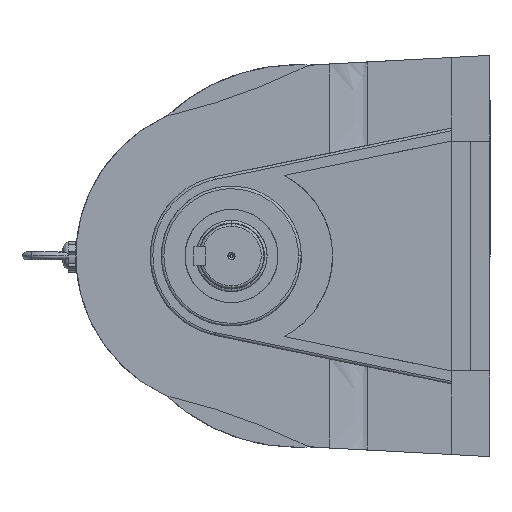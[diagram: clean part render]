
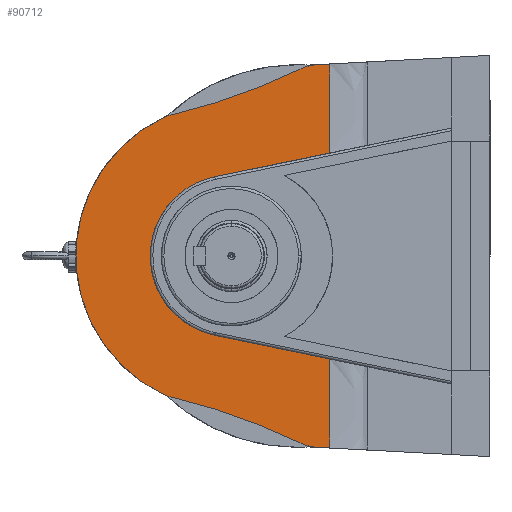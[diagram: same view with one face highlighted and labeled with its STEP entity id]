
A CAD part, left-side view. The second image highlights one B-rep face of the part: STEP entity #90712.
In plain terms, the highlighted planar face has unit normal (-1, 0, 0).
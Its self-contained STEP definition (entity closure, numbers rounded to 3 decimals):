
#1106 = EDGE_CURVE ( 'NONE', #85036, #57407, #5271, .T. ) ;
#2246 = AXIS2_PLACEMENT_3D ( 'NONE', #37320, #37298, #37203 ) ;
#2641 = ORIENTED_EDGE ( 'NONE', *, *, #4628, .T. ) ;
#4628 = EDGE_CURVE ( 'NONE', #57407, #76875, #49115, .T. ) ;
#5014 = CARTESIAN_POINT ( 'NONE',  ( 22., 133.549, 122.81 ) ) ;
#5271 = CIRCLE ( 'NONE', #89835, 62.5 ) ;
#6254 = ORIENTED_EDGE ( 'NONE', *, *, #86771, .T. ) ;
#7099 = CARTESIAN_POINT ( 'NONE',  ( 22., 241.499, -84.44 ) ) ;
#8887 = CARTESIAN_POINT ( 'NONE',  ( 22., 123.914, 79.481 ) ) ;
#8916 = DIRECTION ( 'NONE',  ( -1., 0., 0. ) ) ;
#9970 = ORIENTED_EDGE ( 'NONE', *, *, #73227, .T. ) ;
#11893 = DIRECTION ( 'NONE',  ( 0., 0., 1. ) ) ;
#12265 = DIRECTION ( 'NONE',  ( 0., 0., 1. ) ) ;
#12725 = LINE ( 'NONE', #64400, #51191 ) ;
#12832 = LINE ( 'NONE', #47506, #46825 ) ;
#12890 = VECTOR ( 'NONE', #33364, 1000. ) ;
#12940 = CIRCLE ( 'NONE', #2246, 25. ) ;
#12943 = ORIENTED_EDGE ( 'NONE', *, *, #22078, .T. ) ;
#13247 = DIRECTION ( 'NONE',  ( 0., 0., 1. ) ) ;
#13917 = DIRECTION ( 'NONE',  ( 1., 0., 0. ) ) ;
#14103 = CARTESIAN_POINT ( 'NONE',  ( 22., 0., -155. ) ) ;
#14361 = DIRECTION ( 'NONE',  ( 0., 0., -1. ) ) ;
#14475 = VECTOR ( 'NONE', #60112, 1000. ) ;
#20014 = DIRECTION ( 'NONE',  ( 0., 0., 1. ) ) ;
#21430 = FACE_OUTER_BOUND ( 'NONE', #22090, .T. ) ;
#21664 = VECTOR ( 'NONE', #11893, 1000. ) ;
#22078 = EDGE_CURVE ( 'NONE', #46226, #36135, #12725, .T. ) ;
#22090 = EDGE_LOOP ( 'NONE', ( #58035, #82352, #9970, #50724, #32650, #34724, #38452, #37929, #2641, #36128, #12943, #47727, #6254, #76761 ) ) ;
#23446 = CARTESIAN_POINT ( 'NONE',  ( 22., 212.607, -61.215 ) ) ;
#23545 = CIRCLE ( 'NONE', #44598, 25. ) ;
#25952 = EDGE_CURVE ( 'NONE', #76656, #85036, #69580, .T. ) ;
#26578 = VERTEX_POINT ( 'NONE', #47548 ) ;
#27817 = AXIS2_PLACEMENT_3D ( 'NONE', #7099, #57611, #14361 ) ;
#28840 = VERTEX_POINT ( 'NONE', #50413 ) ;
#28969 = EDGE_CURVE ( 'NONE', #26578, #51081, #12940, .T. ) ;
#31027 = CIRCLE ( 'NONE', #61595, 491.905 ) ;
#32274 = CARTESIAN_POINT ( 'NONE',  ( 22., 212.607, 61.215 ) ) ;
#32650 = ORIENTED_EDGE ( 'NONE', *, *, #44867, .T. ) ;
#33171 = AXIS2_PLACEMENT_3D ( 'NONE', #40508, #90098, #47737 ) ;
#33364 = DIRECTION ( 'NONE',  ( 0., -0.979, 0.202 ) ) ;
#34724 = ORIENTED_EDGE ( 'NONE', *, *, #53241, .T. ) ;
#35411 = DIRECTION ( 'NONE',  ( -1., 0., 0. ) ) ;
#35455 = CIRCLE ( 'NONE', #52232, 25. ) ;
#36005 = CARTESIAN_POINT ( 'NONE',  ( 22., 134.887, 147.774 ) ) ;
#36128 = ORIENTED_EDGE ( 'NONE', *, *, #86600, .T. ) ;
#36135 = VERTEX_POINT ( 'NONE', #36005 ) ;
#36301 = CARTESIAN_POINT ( 'NONE',  ( 22., 200., 0. ) ) ;
#36886 = VERTEX_POINT ( 'NONE', #58695 ) ;
#37203 = DIRECTION ( 'NONE',  ( 0., 0., -1. ) ) ;
#37298 = DIRECTION ( 'NONE',  ( -1., 0., 0. ) ) ;
#37320 = CARTESIAN_POINT ( 'NONE',  ( 22., 241.524, 84.434 ) ) ;
#37828 = VERTEX_POINT ( 'NONE', #47869 ) ;
#37929 = ORIENTED_EDGE ( 'NONE', *, *, #1106, .T. ) ;
#38452 = ORIENTED_EDGE ( 'NONE', *, *, #25952, .T. ) ;
#40508 = CARTESIAN_POINT ( 'NONE',  ( 22., 359.578, -587.678 ) ) ;
#40581 = DIRECTION ( 'NONE',  ( 0., 0., 1. ) ) ;
#40878 = LINE ( 'NONE', #55179, #21664 ) ;
#42349 = EDGE_CURVE ( 'NONE', #36886, #36135, #35455, .T. ) ;
#44313 = AXIS2_PLACEMENT_3D ( 'NONE', #52198, #8916, #59418 ) ;
#44598 = AXIS2_PLACEMENT_3D ( 'NONE', #78117, #35411, #85126 ) ;
#44867 = EDGE_CURVE ( 'NONE', #77585, #78333, #47672, .T. ) ;
#46226 = VERTEX_POINT ( 'NONE', #85695 ) ;
#46825 = VECTOR ( 'NONE', #40581, 1000. ) ;
#47506 = CARTESIAN_POINT ( 'NONE',  ( 22., 123.914, 0. ) ) ;
#47548 = CARTESIAN_POINT ( 'NONE',  ( 22., 247.234, 108.773 ) ) ;
#47672 = LINE ( 'NONE', #14103, #83137 ) ;
#47727 = ORIENTED_EDGE ( 'NONE', *, *, #42349, .F. ) ;
#47737 = DIRECTION ( 'NONE',  ( 0., 0., 1. ) ) ;
#47869 = CARTESIAN_POINT ( 'NONE',  ( 22., 252.178, -107.044 ) ) ;
#48411 = EDGE_CURVE ( 'NONE', #37828, #68028, #61627, .T. ) ;
#49115 = LINE ( 'NONE', #32274, #12890 ) ;
#50302 = CARTESIAN_POINT ( 'NONE',  ( 22., 123.914, -79.481 ) ) ;
#50413 = CARTESIAN_POINT ( 'NONE',  ( 22., 144.481, -145.293 ) ) ;
#50724 = ORIENTED_EDGE ( 'NONE', *, *, #83601, .T. ) ;
#51081 = VERTEX_POINT ( 'NONE', #64122 ) ;
#51191 = VECTOR ( 'NONE', #64275, 1000. ) ;
#52198 = CARTESIAN_POINT ( 'NONE',  ( 22., 201.61, 0.003 ) ) ;
#52232 = AXIS2_PLACEMENT_3D ( 'NONE', #5014, #55544, #12265 ) ;
#53241 = EDGE_CURVE ( 'NONE', #78333, #76656, #40878, .T. ) ;
#55179 = CARTESIAN_POINT ( 'NONE',  ( 22., 123.914, 0. ) ) ;
#55544 = DIRECTION ( 'NONE',  ( 1., 0., 0. ) ) ;
#55959 = PLANE ( 'NONE',  #78351 ) ;
#57166 = CARTESIAN_POINT ( 'NONE',  ( 22., 359.578, 587.678 ) ) ;
#57407 = VERTEX_POINT ( 'NONE', #66412 ) ;
#57611 = DIRECTION ( 'NONE',  ( -1., 0., 0. ) ) ;
#57856 = CARTESIAN_POINT ( 'NONE',  ( 22., 247.21, -108.779 ) ) ;
#58035 = ORIENTED_EDGE ( 'NONE', *, *, #68181, .T. ) ;
#58695 = CARTESIAN_POINT ( 'NONE',  ( 22., 144.481, 145.293 ) ) ;
#59034 = CIRCLE ( 'NONE', #44313, 118.39 ) ;
#59418 = DIRECTION ( 'NONE',  ( 0., 0., 1. ) ) ;
#60112 = DIRECTION ( 'NONE',  ( 0., 0.979, 0.202 ) ) ;
#60201 = CARTESIAN_POINT ( 'NONE',  ( 22., 123.914, -79.481 ) ) ;
#61595 = AXIS2_PLACEMENT_3D ( 'NONE', #57166, #13917, #64281 ) ;
#61627 = CIRCLE ( 'NONE', #27817, 25. ) ;
#63088 = DIRECTION ( 'NONE',  ( -1., 0., 0. ) ) ;
#64122 = CARTESIAN_POINT ( 'NONE',  ( 22., 252.209, 107.035 ) ) ;
#64275 = DIRECTION ( 'NONE',  ( 0., 0.999, -0.053 ) ) ;
#64281 = DIRECTION ( 'NONE',  ( 0., 0., 1. ) ) ;
#64400 = CARTESIAN_POINT ( 'NONE',  ( 22., 0., 155. ) ) ;
#64467 = DIRECTION ( 'NONE',  ( 0., -0.999, -0.053 ) ) ;
#65739 = CARTESIAN_POINT ( 'NONE',  ( 22., 134.887, -147.774 ) ) ;
#66412 = CARTESIAN_POINT ( 'NONE',  ( 22., 212.607, 61.215 ) ) ;
#68028 = VERTEX_POINT ( 'NONE', #57856 ) ;
#68181 = EDGE_CURVE ( 'NONE', #51081, #37828, #59034, .T. ) ;
#69580 = LINE ( 'NONE', #60201, #14475 ) ;
#71619 = CARTESIAN_POINT ( 'NONE',  ( 22., 123.914, -148.362 ) ) ;
#73227 = EDGE_CURVE ( 'NONE', #68028, #28840, #74736, .T. ) ;
#74736 = CIRCLE ( 'NONE', #33171, 491.905 ) ;
#76656 = VERTEX_POINT ( 'NONE', #50302 ) ;
#76761 = ORIENTED_EDGE ( 'NONE', *, *, #28969, .T. ) ;
#76875 = VERTEX_POINT ( 'NONE', #8887 ) ;
#77585 = VERTEX_POINT ( 'NONE', #65739 ) ;
#78117 = CARTESIAN_POINT ( 'NONE',  ( 22., 133.549, -122.81 ) ) ;
#78333 = VERTEX_POINT ( 'NONE', #71619 ) ;
#78351 = AXIS2_PLACEMENT_3D ( 'NONE', #84028, #63088, #20014 ) ;
#82352 = ORIENTED_EDGE ( 'NONE', *, *, #48411, .T. ) ;
#83137 = VECTOR ( 'NONE', #64467, 1000. ) ;
#83601 = EDGE_CURVE ( 'NONE', #28840, #77585, #23545, .T. ) ;
#84028 = CARTESIAN_POINT ( 'NONE',  ( 22., 200., 0. ) ) ;
#84802 = DIRECTION ( 'NONE',  ( 1., 0., 0. ) ) ;
#85036 = VERTEX_POINT ( 'NONE', #23446 ) ;
#85126 = DIRECTION ( 'NONE',  ( 0., 0., 1. ) ) ;
#85695 = CARTESIAN_POINT ( 'NONE',  ( 22., 123.914, 148.362 ) ) ;
#86600 = EDGE_CURVE ( 'NONE', #76875, #46226, #12832, .T. ) ;
#86771 = EDGE_CURVE ( 'NONE', #36886, #26578, #31027, .T. ) ;
#89835 = AXIS2_PLACEMENT_3D ( 'NONE', #36301, #84802, #13247 ) ;
#90098 = DIRECTION ( 'NONE',  ( 1., 0., 0. ) ) ;
#90712 = ADVANCED_FACE ( 'NONE', ( #21430 ), #55959, .T. ) ;
